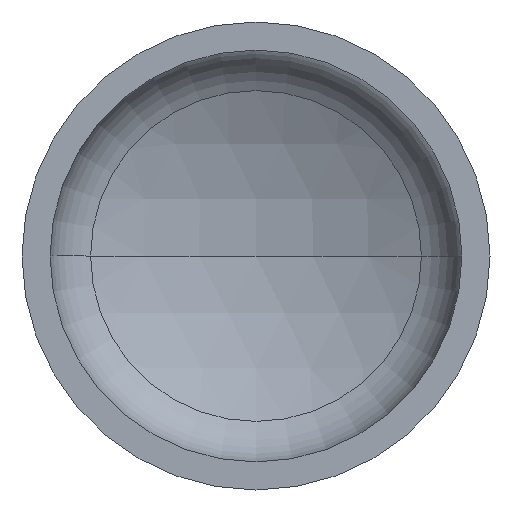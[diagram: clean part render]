
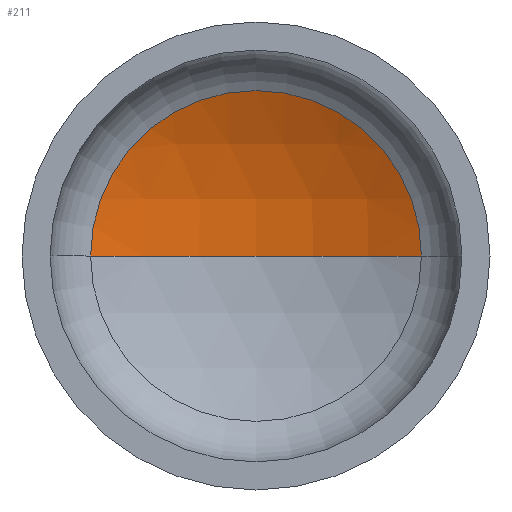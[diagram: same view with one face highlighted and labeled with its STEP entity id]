
A CAD part, front view. The second image highlights one B-rep face of the part: STEP entity #211.
In plain terms, the highlighted spherical face has radius 800 mm.
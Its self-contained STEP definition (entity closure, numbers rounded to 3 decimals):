
#5 = AXIS2_PLACEMENT_3D ( 'NONE', #168, #165, #27 ) ;
#8 = AXIS2_PLACEMENT_3D ( 'NONE', #192, #185, #326 ) ;
#18 = AXIS2_PLACEMENT_3D ( 'NONE', #330, #289, #290 ) ;
#27 = DIRECTION ( 'NONE',  ( -1., 0., 0. ) ) ;
#29 = AXIS2_PLACEMENT_3D ( 'NONE', #369, #260, #257 ) ;
#90 = CARTESIAN_POINT ( 'NONE',  ( 353.488, 259.048, 0. ) ) ;
#120 = CIRCLE ( 'NONE', #8, 353.488 ) ;
#153 = VERTEX_POINT ( 'NONE', #382 ) ;
#163 = ORIENTED_EDGE ( 'NONE', *, *, #355, .T. ) ;
#165 = DIRECTION ( 'NONE',  ( 0., 0., -1. ) ) ;
#168 = CARTESIAN_POINT ( 'NONE',  ( 0., -458.619, 0. ) ) ;
#185 = DIRECTION ( 'NONE',  ( 0., -1., 0. ) ) ;
#192 = CARTESIAN_POINT ( 'NONE',  ( 0., 259.048, 0. ) ) ;
#211 = ADVANCED_FACE ( 'NONE', ( #378 ), #244, .F. ) ;
#219 = CIRCLE ( 'NONE', #18, 800. ) ;
#234 = CARTESIAN_POINT ( 'NONE',  ( 0., 341.381, 0. ) ) ;
#243 = ORIENTED_EDGE ( 'NONE', *, *, #335, .F. ) ;
#244 = SPHERICAL_SURFACE ( 'NONE', #29, 800. ) ;
#257 = DIRECTION ( 'NONE',  ( -1., 0., 0. ) ) ;
#260 = DIRECTION ( 'NONE',  ( 0., 0., -1. ) ) ;
#279 = CIRCLE ( 'NONE', #5, 800. ) ;
#289 = DIRECTION ( 'NONE',  ( 0., 0., 1. ) ) ;
#290 = DIRECTION ( 'NONE',  ( 1., 0., 0. ) ) ;
#300 = VERTEX_POINT ( 'NONE', #234 ) ;
#326 = DIRECTION ( 'NONE',  ( 1., 0., 0. ) ) ;
#330 = CARTESIAN_POINT ( 'NONE',  ( 0., -458.619, 0. ) ) ;
#335 = EDGE_CURVE ( 'NONE', #300, #153, #219, .T. ) ;
#355 = EDGE_CURVE ( 'NONE', #401, #153, #120, .T. ) ;
#356 = EDGE_CURVE ( 'NONE', #300, #401, #279, .T. ) ;
#369 = CARTESIAN_POINT ( 'NONE',  ( 0., -458.619, 0. ) ) ;
#376 = EDGE_LOOP ( 'NONE', ( #243, #397, #163 ) ) ;
#378 = FACE_OUTER_BOUND ( 'NONE', #376, .T. ) ;
#382 = CARTESIAN_POINT ( 'NONE',  ( -353.488, 259.048, 0. ) ) ;
#397 = ORIENTED_EDGE ( 'NONE', *, *, #356, .T. ) ;
#401 = VERTEX_POINT ( 'NONE', #90 ) ;
